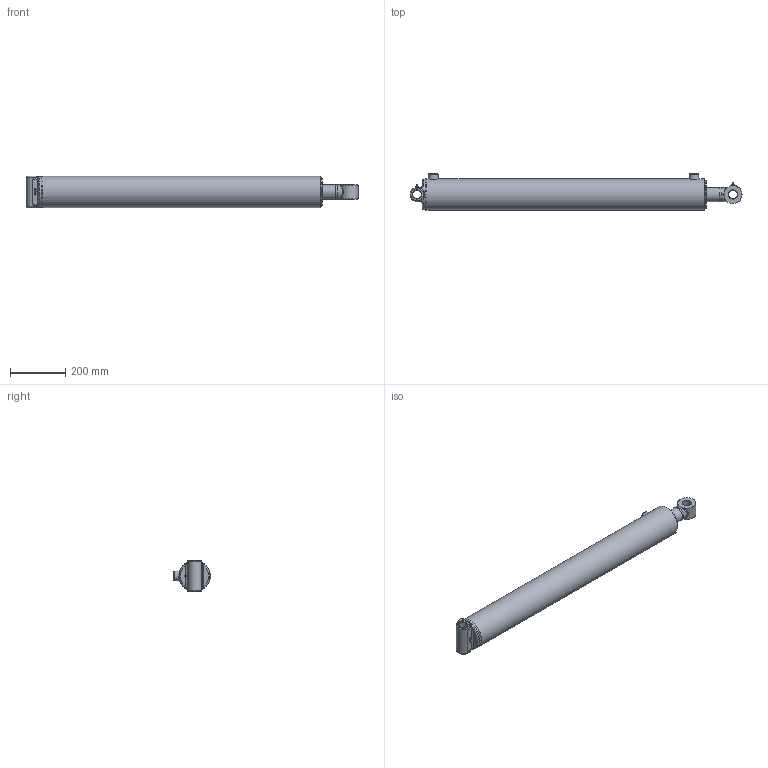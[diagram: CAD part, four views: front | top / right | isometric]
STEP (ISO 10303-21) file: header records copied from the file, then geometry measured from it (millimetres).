
FILE_DESCRIPTION(/* description */ ('Ø4.00 X 36.00 DA'),/* implementation_level */ '2;1');
FILE_NAME(/* name */ 'D:\Temp\1EC677A6EC87F08\j2zp25ge.wp2\Temp\ufz41ali..stp',/* time_stamp */ '2020-09-18T16:00:16+00:00',/* author */ (''),/* organization */ ('PRINCE MANUFACTURING'),/* preprocessor_version */ 'ST-DEVELOPER v18.1',/* originating_system */ 'Autodesk Inventor 2021',/* authorisation */ '');
FILE_SCHEMA (('AUTOMOTIVE_DESIGN { 1 0 10303 214 3 1 1 }'));
Length unit declared in the file: inch
Products named in the file (21): PC4036020A00-450XTXS; 0619-XTSG00-360; 0519-T-39620; 161900225; 200015706; 06Weld1_C360; 0719-P-125; 220000212; 0819-G-200; 230025106; 230025006; 240000026; 240061342; 240000342; 0211-AXS40-450X; 0111A-JAW4-41937; 210600511; 02Weld_C360; 240020009; 250014200; 270010020
Assembly tree (22 placements, depth 3):
  PC4036020A00-450XTXS
    0619-XTSG00-360
      0519-T-39620
      161900225
      200015706  x2
      06Weld1_C360
    0719-P-125
    220000212
    0819-G-200
    230025106
    230025006
    240000026
    240061342
    240000342
    0211-AXS40-450X
      0111A-JAW4-41937
      210600511
      02Weld_C360
    240020009
    250014200
    270010020  x2
Bounding box: 1201.07 x 132.19 x 114.3 mm (x, y, z)
Volume: 4919849.7 mm3; surface area: 1077204.3 mm2
Topology: 26 solids, 26 shells, 499 faces, 1415 edges, 978 vertices
Faces by surface type: plane 139, bspline 126, torus 90, cylinder 80, cone 62, sphere 2
Full cylindrical faces by diameter (mm): 1.524 x2, 5.359 x2, 6.35 x2, 12.7 x2, 20.269 x2, 29.464 x1, 31.699 x1, 31.826 x1, 32.131 x2, 34.315 x1, 34.925 x2, 35.052 x2, 50.8 x1, 50.876 x2, 51.994 x2, 52.832 x1, 53.188 x1, 57.963 x1, 59.157 x1, 60.35 x1, 61.976 x2, 63.5 x2, 73.152 x1, 82.55 x1, 92.177 x2, 92.913 x2, 96.52 x1, 98.031 x2, 98.273 x4, 100.986 x2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
Entity records: 32916 total; most frequent: CARTESIAN_POINT 19556, ORIENTED_EDGE 2656, DIRECTION 2459, EDGE_CURVE 1328, AXIS2_PLACEMENT_3D 1059, VERTEX_POINT 925, CIRCLE 657, EDGE_LOOP 539
